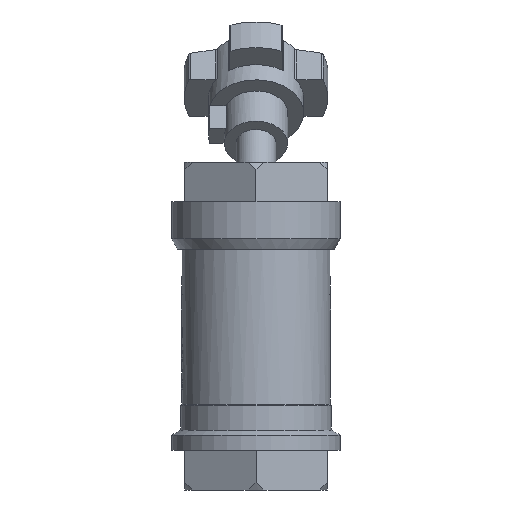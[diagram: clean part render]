
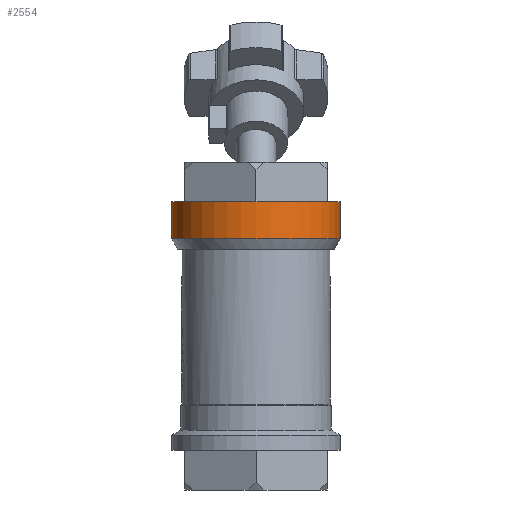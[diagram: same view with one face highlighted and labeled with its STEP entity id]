
A CAD part, front view. The second image highlights one B-rep face of the part: STEP entity #2554.
In plain terms, the highlighted cylindrical face has radius 31.9 mm (diameter 63.8 mm), a full revolution.
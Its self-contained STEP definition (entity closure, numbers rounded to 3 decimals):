
#2554=ADVANCED_FACE('',(#8559,#8561),#8563,.T.);
#8559=FACE_OUTER_BOUND('',#8560,.T.);
#8560=EDGE_LOOP('',(#14134));
#8561=FACE_OUTER_BOUND('',#8562,.T.);
#8562=EDGE_LOOP('',(#14135));
#8563=CYLINDRICAL_SURFACE('',#8564,31.9);
#8564=AXIS2_PLACEMENT_3D('',#8565,#8566,#8567);
#8565=CARTESIAN_POINT('',(0.,0.,29.));
#8566=DIRECTION('',(0.,0.,1.));
#8567=DIRECTION('',(0.,1.,0.));
#14134=ORIENTED_EDGE('',*,*,#17807,.T.);
#14135=ORIENTED_EDGE('',*,*,#17273,.T.);
#17273=EDGE_CURVE('',#19544,#19544,#19545,.T.);
#17807=EDGE_CURVE('',#20375,#20375,#20376,.F.);
#19544=VERTEX_POINT('',#29647);
#19545=CIRCLE('',#29648,31.9);
#20375=VERTEX_POINT('',#36667);
#20376=CIRCLE('',#36668,31.9);
#29647=CARTESIAN_POINT('',(0.,31.9,33.));
#29648=AXIS2_PLACEMENT_3D('',#29649,#29650,#29651);
#29649=CARTESIAN_POINT('',(0.,0.,33.));
#29650=DIRECTION('',(0.,0.,1.));
#29651=DIRECTION('',(0.,1.,0.));
#36667=CARTESIAN_POINT('',(0.,31.9,47.));
#36668=AXIS2_PLACEMENT_3D('',#36669,#36670,#36671);
#36669=CARTESIAN_POINT('',(0.,0.,47.));
#36670=DIRECTION('',(0.,0.,1.));
#36671=DIRECTION('',(0.,1.,0.));
